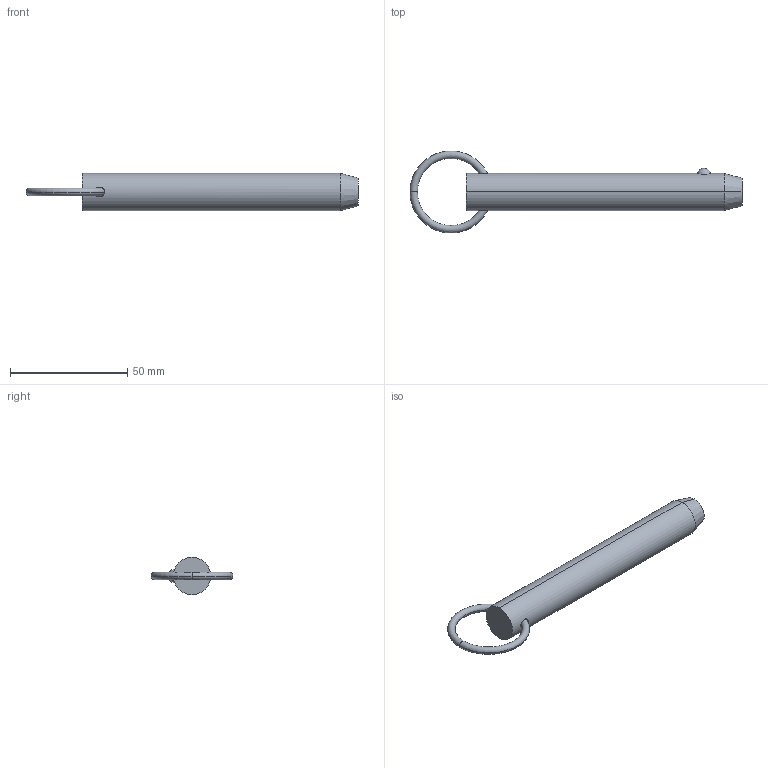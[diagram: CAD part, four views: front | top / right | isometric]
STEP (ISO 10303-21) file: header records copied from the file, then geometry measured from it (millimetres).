
FILE_DESCRIPTION (( 'STEP AP203' ), '1' );
FILE_NAME ('33010.W6235.step', '2024-11-01T10:41:59', ( '' ), ( '' ), 'SwSTEP 2.0', 'SolidWorks 2019', '' );
FILE_SCHEMA (( 'CONFIG_CONTROL_DESIGN' ));
Length unit declared in the file: millimetre
Products named in the file (3): Part2_33010.W6235; 33010.W6235; Part1_33010.W6235
Assembly tree (2 placements, depth 2):
  33010.W6235
    Part1_33010.W6235
    Part2_33010.W6235
Bounding box: 141.41 x 34.93 x 15.88 mm (x, y, z)
Volume: 23553.4 mm3; surface area: 7324.2 mm2
Topology: 2 solids, 2 shells, 16 faces, 31 edges, 18 vertices
Faces by surface type: torus 8, sphere 2, cone 2, cylinder 2, plane 2
Entity records: 889 total; most frequent: CARTESIAN_POINT 246, DIRECTION 88, ORIENTED_EDGE 62, AXIS2_PLACEMENT_3D 42, EDGE_CURVE 31, PERSON_AND_ORGANIZATION 26, CIRCLE 21, LOCAL_TIME 19
